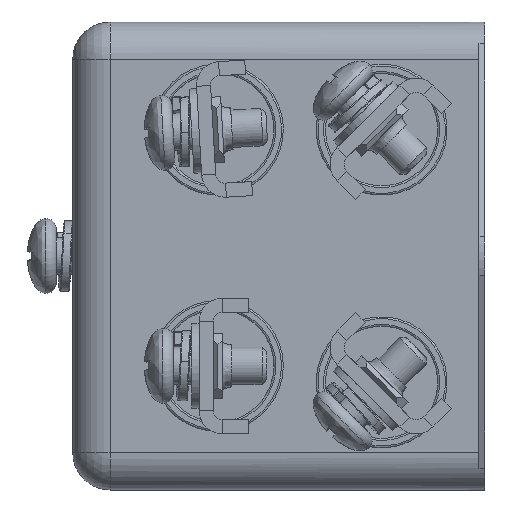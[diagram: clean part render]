
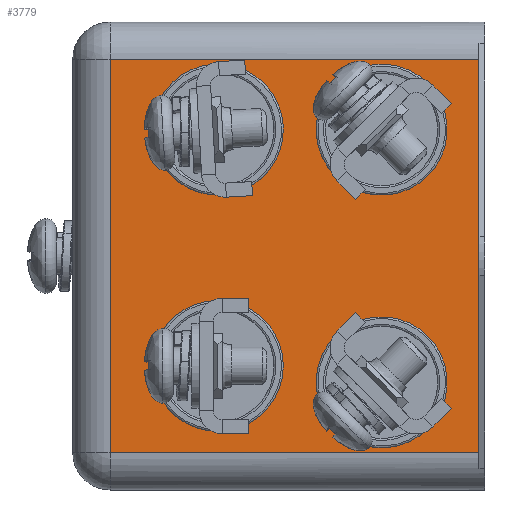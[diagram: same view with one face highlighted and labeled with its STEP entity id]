
A CAD part, left-side view. The second image highlights one B-rep face of the part: STEP entity #3779.
In plain terms, the highlighted planar face has unit normal (-1, 0, 0).
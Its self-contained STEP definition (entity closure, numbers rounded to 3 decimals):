
#16 = EDGE_CURVE ( 'NONE', #488, #4608, #1841, .T. ) ;
#227 = ORIENTED_EDGE ( 'NONE', *, *, #16, .T. ) ;
#299 = CARTESIAN_POINT ( 'NONE',  ( -32.5, 28.5, 11. ) ) ;
#301 = EDGE_LOOP ( 'NONE', ( #227, #7174 ) ) ;
#325 = CIRCLE ( 'NONE', #5416, 2.5 ) ;
#488 = VERTEX_POINT ( 'NONE', #299 ) ;
#575 = DIRECTION ( 'NONE',  ( 0., 0., -1. ) ) ;
#585 = CARTESIAN_POINT ( 'NONE',  ( -32.5, 11., 16. ) ) ;
#690 = CARTESIAN_POINT ( 'NONE',  ( -32.5, 11., -13.5 ) ) ;
#706 = FACE_BOUND ( 'NONE', #9439, .T. ) ;
#778 = VERTEX_POINT ( 'NONE', #8101 ) ;
#999 = DIRECTION ( 'NONE',  ( 0., 0., -1. ) ) ;
#1213 = DIRECTION ( 'NONE',  ( 1., 0., 0. ) ) ;
#1246 = VERTEX_POINT ( 'NONE', #10594 ) ;
#1310 = DIRECTION ( 'NONE',  ( 1., 0., 0. ) ) ;
#1584 = EDGE_CURVE ( 'NONE', #3174, #10165, #2321, .T. ) ;
#1589 = EDGE_CURVE ( 'NONE', #2038, #9475, #4277, .T. ) ;
#1634 = EDGE_CURVE ( 'NONE', #10165, #3174, #6213, .T. ) ;
#1777 = VERTEX_POINT ( 'NONE', #8362 ) ;
#1841 = CIRCLE ( 'NONE', #2845, 2.5 ) ;
#1882 = EDGE_LOOP ( 'NONE', ( #7297, #3126 ) ) ;
#1907 = DIRECTION ( 'NONE',  ( 0., 0., -1. ) ) ;
#1926 = CARTESIAN_POINT ( 'NONE',  ( -32.5, 11., -11. ) ) ;
#1940 = DIRECTION ( 'NONE',  ( 0., 1., 0. ) ) ;
#2001 = AXIS2_PLACEMENT_3D ( 'NONE', #6622, #4215, #5219 ) ;
#2022 = DIRECTION ( 'NONE',  ( 0., -1., 0. ) ) ;
#2038 = VERTEX_POINT ( 'NONE', #1926 ) ;
#2055 = DIRECTION ( 'NONE',  ( 1., 0., 0. ) ) ;
#2135 = DIRECTION ( 'NONE',  ( 1., 0., 0. ) ) ;
#2321 = CIRCLE ( 'NONE', #2001, 2.5 ) ;
#2394 = CARTESIAN_POINT ( 'NONE',  ( -32.5, 28.5, 13.5 ) ) ;
#2481 = EDGE_CURVE ( 'NONE', #6904, #1777, #325, .T. ) ;
#2670 = CARTESIAN_POINT ( 'NONE',  ( -32.5, 44., 21. ) ) ;
#2711 = CARTESIAN_POINT ( 'NONE',  ( -32.5, 0.6, 25. ) ) ;
#2845 = AXIS2_PLACEMENT_3D ( 'NONE', #2394, #2135, #7645 ) ;
#3078 = EDGE_CURVE ( 'NONE', #4649, #1246, #9490, .T. ) ;
#3126 = ORIENTED_EDGE ( 'NONE', *, *, #1634, .T. ) ;
#3174 = VERTEX_POINT ( 'NONE', #4425 ) ;
#3191 = FACE_BOUND ( 'NONE', #9968, .T. ) ;
#3214 = EDGE_CURVE ( 'NONE', #1246, #778, #9236, .T. ) ;
#3386 = DIRECTION ( 'NONE',  ( 0., 0., -1. ) ) ;
#3613 = CARTESIAN_POINT ( 'NONE',  ( -32.5, 11., -13.5 ) ) ;
#3667 = AXIS2_PLACEMENT_3D ( 'NONE', #690, #8376, #3386 ) ;
#3779 = ADVANCED_FACE ( 'NONE', ( #3191, #706, #9344, #7095, #4877 ), #10663, .F. ) ;
#3960 = DIRECTION ( 'NONE',  ( 1., 0., 0. ) ) ;
#3978 = VECTOR ( 'NONE', #2022, 1000. ) ;
#4192 = LINE ( 'NONE', #2670, #10113 ) ;
#4215 = DIRECTION ( 'NONE',  ( 1., 0., 0. ) ) ;
#4277 = CIRCLE ( 'NONE', #3667, 2.5 ) ;
#4425 = CARTESIAN_POINT ( 'NONE',  ( -32.5, 28.5, -14.243 ) ) ;
#4470 = DIRECTION ( 'NONE',  ( 0., 0., -1. ) ) ;
#4485 = CARTESIAN_POINT ( 'NONE',  ( -32.5, 11., -16. ) ) ;
#4528 = DIRECTION ( 'NONE',  ( 0., 0., -1. ) ) ;
#4565 = ORIENTED_EDGE ( 'NONE', *, *, #3078, .T. ) ;
#4608 = VERTEX_POINT ( 'NONE', #10563 ) ;
#4649 = VERTEX_POINT ( 'NONE', #8034 ) ;
#4793 = AXIS2_PLACEMENT_3D ( 'NONE', #9403, #2055, #4528 ) ;
#4877 = FACE_OUTER_BOUND ( 'NONE', #6049, .T. ) ;
#5205 = ORIENTED_EDGE ( 'NONE', *, *, #2481, .T. ) ;
#5219 = DIRECTION ( 'NONE',  ( 0., 0., -1. ) ) ;
#5309 = VERTEX_POINT ( 'NONE', #9773 ) ;
#5416 = AXIS2_PLACEMENT_3D ( 'NONE', #8987, #3960, #9838 ) ;
#5463 = ORIENTED_EDGE ( 'NONE', *, *, #9367, .F. ) ;
#5560 = EDGE_CURVE ( 'NONE', #5309, #4649, #4192, .T. ) ;
#5573 = DIRECTION ( 'NONE',  ( 1., 0., 0. ) ) ;
#6049 = EDGE_LOOP ( 'NONE', ( #5463, #8223, #4565, #10095 ) ) ;
#6191 = CARTESIAN_POINT ( 'NONE',  ( -32.5, 11., 13.5 ) ) ;
#6213 = CIRCLE ( 'NONE', #4793, 2.5 ) ;
#6284 = CARTESIAN_POINT ( 'NONE',  ( -32.5, 28.5, 13.5 ) ) ;
#6616 = EDGE_CURVE ( 'NONE', #9475, #2038, #7706, .T. ) ;
#6622 = CARTESIAN_POINT ( 'NONE',  ( -32.5, 28.5, -11.743 ) ) ;
#6904 = VERTEX_POINT ( 'NONE', #585 ) ;
#7047 = DIRECTION ( 'NONE',  ( 0., 0., -1. ) ) ;
#7082 = AXIS2_PLACEMENT_3D ( 'NONE', #6284, #1310, #7133 ) ;
#7095 = FACE_BOUND ( 'NONE', #301, .T. ) ;
#7133 = DIRECTION ( 'NONE',  ( 0., 0., -1. ) ) ;
#7174 = ORIENTED_EDGE ( 'NONE', *, *, #10020, .T. ) ;
#7256 = VECTOR ( 'NONE', #999, 1000. ) ;
#7297 = ORIENTED_EDGE ( 'NONE', *, *, #1584, .T. ) ;
#7302 = VECTOR ( 'NONE', #1907, 1000. ) ;
#7557 = LINE ( 'NONE', #2711, #7302 ) ;
#7645 = DIRECTION ( 'NONE',  ( 0., 0., -1. ) ) ;
#7677 = CIRCLE ( 'NONE', #9277, 2.5 ) ;
#7706 = CIRCLE ( 'NONE', #9048, 2.5 ) ;
#8034 = CARTESIAN_POINT ( 'NONE',  ( -32.5, 40., 21. ) ) ;
#8050 = CARTESIAN_POINT ( 'NONE',  ( -32.5, 44., 25. ) ) ;
#8078 = CARTESIAN_POINT ( 'NONE',  ( -32.5, 28.5, -9.243 ) ) ;
#8101 = CARTESIAN_POINT ( 'NONE',  ( -32.5, 0.6, -21. ) ) ;
#8223 = ORIENTED_EDGE ( 'NONE', *, *, #5560, .T. ) ;
#8362 = CARTESIAN_POINT ( 'NONE',  ( -32.5, 11., 11. ) ) ;
#8376 = DIRECTION ( 'NONE',  ( 1., 0., 0. ) ) ;
#8474 = ORIENTED_EDGE ( 'NONE', *, *, #8703, .T. ) ;
#8695 = CARTESIAN_POINT ( 'NONE',  ( -32.5, 44., -21. ) ) ;
#8703 = EDGE_CURVE ( 'NONE', #1777, #6904, #7677, .T. ) ;
#8987 = CARTESIAN_POINT ( 'NONE',  ( -32.5, 11., 13.5 ) ) ;
#9012 = ORIENTED_EDGE ( 'NONE', *, *, #6616, .T. ) ;
#9048 = AXIS2_PLACEMENT_3D ( 'NONE', #3613, #9481, #4470 ) ;
#9236 = LINE ( 'NONE', #8695, #3978 ) ;
#9277 = AXIS2_PLACEMENT_3D ( 'NONE', #6191, #1213, #7047 ) ;
#9280 = ORIENTED_EDGE ( 'NONE', *, *, #1589, .T. ) ;
#9306 = CARTESIAN_POINT ( 'NONE',  ( -32.5, 40., -25. ) ) ;
#9344 = FACE_BOUND ( 'NONE', #1882, .T. ) ;
#9367 = EDGE_CURVE ( 'NONE', #5309, #778, #7557, .T. ) ;
#9403 = CARTESIAN_POINT ( 'NONE',  ( -32.5, 28.5, -11.743 ) ) ;
#9439 = EDGE_LOOP ( 'NONE', ( #9012, #9280 ) ) ;
#9475 = VERTEX_POINT ( 'NONE', #4485 ) ;
#9481 = DIRECTION ( 'NONE',  ( 1., 0., 0. ) ) ;
#9490 = LINE ( 'NONE', #9306, #7256 ) ;
#9660 = AXIS2_PLACEMENT_3D ( 'NONE', #8050, #5573, #575 ) ;
#9773 = CARTESIAN_POINT ( 'NONE',  ( -32.5, 0.6, 21. ) ) ;
#9838 = DIRECTION ( 'NONE',  ( 0., 0., -1. ) ) ;
#9968 = EDGE_LOOP ( 'NONE', ( #8474, #5205 ) ) ;
#10020 = EDGE_CURVE ( 'NONE', #4608, #488, #10208, .T. ) ;
#10095 = ORIENTED_EDGE ( 'NONE', *, *, #3214, .T. ) ;
#10113 = VECTOR ( 'NONE', #1940, 1000. ) ;
#10165 = VERTEX_POINT ( 'NONE', #8078 ) ;
#10208 = CIRCLE ( 'NONE', #7082, 2.5 ) ;
#10563 = CARTESIAN_POINT ( 'NONE',  ( -32.5, 28.5, 16. ) ) ;
#10594 = CARTESIAN_POINT ( 'NONE',  ( -32.5, 40., -21. ) ) ;
#10663 = PLANE ( 'NONE',  #9660 ) ;
